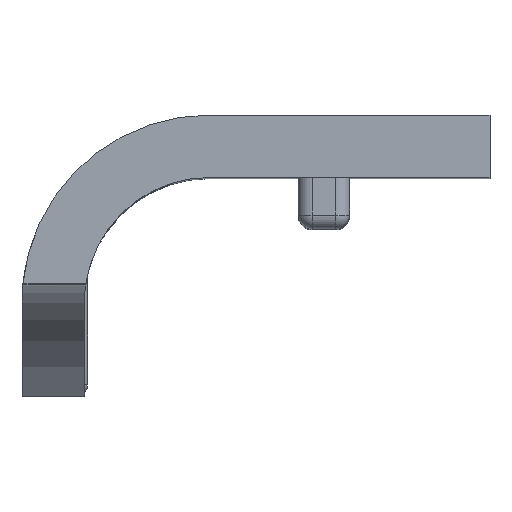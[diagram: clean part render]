
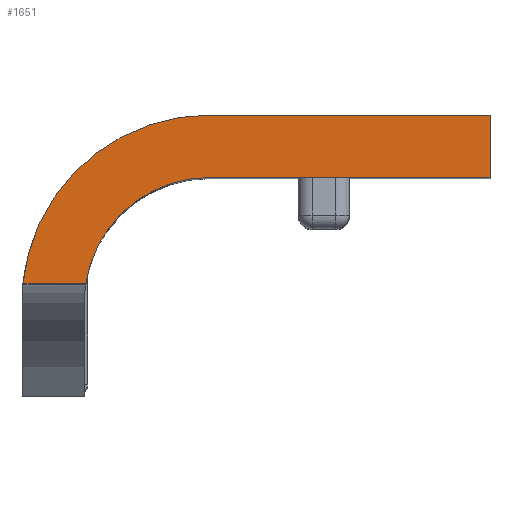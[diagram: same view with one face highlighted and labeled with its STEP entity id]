
A CAD part, top view. The second image highlights one B-rep face of the part: STEP entity #1651.
In plain terms, the highlighted planar face has unit normal (0, 0, 1).
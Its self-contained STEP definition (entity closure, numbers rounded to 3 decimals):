
#131 = CYLINDRICAL_SURFACE('',#132,6.);
#132 = AXIS2_PLACEMENT_3D('',#133,#134,#135);
#133 = CARTESIAN_POINT('',(-38.,7.2,47.));
#134 = DIRECTION('',(-0.,-0.,-1.));
#135 = DIRECTION('',(0.,1.,-0.));
#200 = PLANE('',#201);
#201 = AXIS2_PLACEMENT_3D('',#202,#203,#204);
#202 = CARTESIAN_POINT('',(-47.,7.8,-28.5));
#203 = DIRECTION('',(-0.,-1.,0.));
#204 = DIRECTION('',(0.,0.,1.));
#246 = CYLINDRICAL_SURFACE('',#247,4.);
#247 = AXIS2_PLACEMENT_3D('',#248,#249,#250);
#248 = CARTESIAN_POINT('',(-38.,7.2,47.));
#249 = DIRECTION('',(-0.,-0.,-1.));
#250 = DIRECTION('',(0.,1.,-0.));
#539 = EDGE_CURVE('',#540,#542,#544,.T.);
#540 = VERTEX_POINT('',#541);
#541 = CARTESIAN_POINT('',(-43.97,7.8,-17.));
#542 = VERTEX_POINT('',#543);
#543 = CARTESIAN_POINT('',(-38.,13.2,-17.));
#544 = SURFACE_CURVE('',#545,(#550,#557),.PCURVE_S1.);
#545 = CIRCLE('',#546,6.);
#546 = AXIS2_PLACEMENT_3D('',#547,#548,#549);
#547 = CARTESIAN_POINT('',(-38.,7.2,-17.));
#548 = DIRECTION('',(0.,-0.,-1.));
#549 = DIRECTION('',(0.,1.,-0.));
#550 = PCURVE('',#131,#551);
#551 = DEFINITIONAL_REPRESENTATION('',(#552),#556);
#552 = LINE('',#553,#554);
#553 = CARTESIAN_POINT('',(0.,64.));
#554 = VECTOR('',#555,1.);
#555 = DIRECTION('',(1.,0.));
#556 = ( GEOMETRIC_REPRESENTATION_CONTEXT(2) 
PARAMETRIC_REPRESENTATION_CONTEXT() REPRESENTATION_CONTEXT('2D SPACE',''
  ) );
#557 = PCURVE('',#558,#563);
#558 = PLANE('',#559);
#559 = AXIS2_PLACEMENT_3D('',#560,#561,#562);
#560 = CARTESIAN_POINT('',(-44.,4.2,-17.));
#561 = DIRECTION('',(0.,0.,1.));
#562 = DIRECTION('',(1.,0.,0.));
#563 = DEFINITIONAL_REPRESENTATION('',(#564),#572);
#564 = ( BOUNDED_CURVE() B_SPLINE_CURVE(2,(#565,#566,#567,#568,#569,#570
,#571),.UNSPECIFIED.,.T.,.F.) B_SPLINE_CURVE_WITH_KNOTS((1,2,2,2,2,1),(
    -2.094,0.,2.094,4.189,6.283,
8.378),.UNSPECIFIED.) CURVE() GEOMETRIC_REPRESENTATION_ITEM() 
RATIONAL_B_SPLINE_CURVE((1.,0.5,1.,0.5,1.,0.5,1.)) REPRESENTATION_ITEM(
  '') );
#565 = CARTESIAN_POINT('',(6.,9.));
#566 = CARTESIAN_POINT('',(16.392,9.));
#567 = CARTESIAN_POINT('',(11.196,0.));
#568 = CARTESIAN_POINT('',(6.,-9.));
#569 = CARTESIAN_POINT('',(0.804,0.));
#570 = CARTESIAN_POINT('',(-4.392,9.));
#571 = CARTESIAN_POINT('',(6.,9.));
#572 = ( GEOMETRIC_REPRESENTATION_CONTEXT(2) 
PARAMETRIC_REPRESENTATION_CONTEXT() REPRESENTATION_CONTEXT('2D SPACE',''
  ) );
#590 = PLANE('',#591);
#591 = AXIS2_PLACEMENT_3D('',#592,#593,#594);
#592 = CARTESIAN_POINT('',(-44.,13.2,-75.));
#593 = DIRECTION('',(0.,1.,0.));
#594 = DIRECTION('',(0.,-0.,1.));
#820 = EDGE_CURVE('',#821,#540,#823,.T.);
#821 = VERTEX_POINT('',#822);
#822 = CARTESIAN_POINT('',(-41.955,7.8,-17.));
#823 = SURFACE_CURVE('',#824,(#828,#834),.PCURVE_S1.);
#824 = LINE('',#825,#826);
#825 = CARTESIAN_POINT('',(-45.5,7.8,-17.));
#826 = VECTOR('',#827,1.);
#827 = DIRECTION('',(-1.,0.,0.));
#828 = PCURVE('',#200,#829);
#829 = DEFINITIONAL_REPRESENTATION('',(#830),#833);
#830 = B_SPLINE_CURVE_WITH_KNOTS('',1,(#831,#832),.UNSPECIFIED.,.F.,.F.,
  (2,2),(-3.545,-1.53),.PIECEWISE_BEZIER_KNOTS.);
#831 = CARTESIAN_POINT('',(11.5,-5.045));
#832 = CARTESIAN_POINT('',(11.5,-3.03));
#833 = ( GEOMETRIC_REPRESENTATION_CONTEXT(2) 
PARAMETRIC_REPRESENTATION_CONTEXT() REPRESENTATION_CONTEXT('2D SPACE',''
  ) );
#834 = PCURVE('',#558,#835);
#835 = DEFINITIONAL_REPRESENTATION('',(#836),#839);
#836 = B_SPLINE_CURVE_WITH_KNOTS('',1,(#837,#838),.UNSPECIFIED.,.F.,.F.,
  (2,2),(-3.545,-1.53),.PIECEWISE_BEZIER_KNOTS.);
#837 = CARTESIAN_POINT('',(2.045,3.6));
#838 = CARTESIAN_POINT('',(0.03,3.6));
#839 = ( GEOMETRIC_REPRESENTATION_CONTEXT(2) 
PARAMETRIC_REPRESENTATION_CONTEXT() REPRESENTATION_CONTEXT('2D SPACE',''
  ) );
#866 = EDGE_CURVE('',#821,#867,#869,.T.);
#867 = VERTEX_POINT('',#868);
#868 = CARTESIAN_POINT('',(-38.,11.2,-17.));
#869 = SURFACE_CURVE('',#870,(#875,#882),.PCURVE_S1.);
#870 = CIRCLE('',#871,4.);
#871 = AXIS2_PLACEMENT_3D('',#872,#873,#874);
#872 = CARTESIAN_POINT('',(-38.,7.2,-17.));
#873 = DIRECTION('',(0.,-0.,-1.));
#874 = DIRECTION('',(0.,1.,-0.));
#875 = PCURVE('',#246,#876);
#876 = DEFINITIONAL_REPRESENTATION('',(#877),#881);
#877 = LINE('',#878,#879);
#878 = CARTESIAN_POINT('',(0.,64.));
#879 = VECTOR('',#880,1.);
#880 = DIRECTION('',(1.,0.));
#881 = ( GEOMETRIC_REPRESENTATION_CONTEXT(2) 
PARAMETRIC_REPRESENTATION_CONTEXT() REPRESENTATION_CONTEXT('2D SPACE',''
  ) );
#882 = PCURVE('',#558,#883);
#883 = DEFINITIONAL_REPRESENTATION('',(#884),#892);
#884 = ( BOUNDED_CURVE() B_SPLINE_CURVE(2,(#885,#886,#887,#888,#889,#890
,#891),.UNSPECIFIED.,.T.,.F.) B_SPLINE_CURVE_WITH_KNOTS((1,2,2,2,2,1),(
    -2.094,0.,2.094,4.189,6.283,
8.378),.UNSPECIFIED.) CURVE() GEOMETRIC_REPRESENTATION_ITEM() 
RATIONAL_B_SPLINE_CURVE((1.,0.5,1.,0.5,1.,0.5,1.)) REPRESENTATION_ITEM(
  '') );
#885 = CARTESIAN_POINT('',(6.,7.));
#886 = CARTESIAN_POINT('',(12.928,7.));
#887 = CARTESIAN_POINT('',(9.464,1.));
#888 = CARTESIAN_POINT('',(6.,-5.));
#889 = CARTESIAN_POINT('',(2.536,1.));
#890 = CARTESIAN_POINT('',(-0.928,7.));
#891 = CARTESIAN_POINT('',(6.,7.));
#892 = ( GEOMETRIC_REPRESENTATION_CONTEXT(2) 
PARAMETRIC_REPRESENTATION_CONTEXT() REPRESENTATION_CONTEXT('2D SPACE',''
  ) );
#910 = PLANE('',#911);
#911 = AXIS2_PLACEMENT_3D('',#912,#913,#914);
#912 = CARTESIAN_POINT('',(-42.,11.2,-73.));
#913 = DIRECTION('',(0.,1.,0.));
#914 = DIRECTION('',(0.,-0.,1.));
#1651 = ADVANCED_FACE('',(#1652),#558,.T.);
#1652 = FACE_BOUND('',#1653,.T.);
#1653 = EDGE_LOOP('',(#1654,#1684,#1703,#1704,#1705,#1706));
#1654 = ORIENTED_EDGE('',*,*,#1655,.T.);
#1655 = EDGE_CURVE('',#1656,#1658,#1660,.T.);
#1656 = VERTEX_POINT('',#1657);
#1657 = CARTESIAN_POINT('',(-29.,11.2,-17.));
#1658 = VERTEX_POINT('',#1659);
#1659 = CARTESIAN_POINT('',(-29.,13.2,-17.));
#1660 = SURFACE_CURVE('',#1661,(#1665,#1672),.PCURVE_S1.);
#1661 = LINE('',#1662,#1663);
#1662 = CARTESIAN_POINT('',(-29.,4.2,-17.));
#1663 = VECTOR('',#1664,1.);
#1664 = DIRECTION('',(0.,1.,0.));
#1665 = PCURVE('',#558,#1666);
#1666 = DEFINITIONAL_REPRESENTATION('',(#1667),#1671);
#1667 = LINE('',#1668,#1669);
#1668 = CARTESIAN_POINT('',(15.,0.));
#1669 = VECTOR('',#1670,1.);
#1670 = DIRECTION('',(0.,1.));
#1671 = ( GEOMETRIC_REPRESENTATION_CONTEXT(2) 
PARAMETRIC_REPRESENTATION_CONTEXT() REPRESENTATION_CONTEXT('2D SPACE',''
  ) );
#1672 = PCURVE('',#1673,#1678);
#1673 = PLANE('',#1674);
#1674 = AXIS2_PLACEMENT_3D('',#1675,#1676,#1677);
#1675 = CARTESIAN_POINT('',(-29.,4.2,-39.));
#1676 = DIRECTION('',(1.,0.,0.));
#1677 = DIRECTION('',(0.,0.,1.));
#1678 = DEFINITIONAL_REPRESENTATION('',(#1679),#1683);
#1679 = LINE('',#1680,#1681);
#1680 = CARTESIAN_POINT('',(22.,0.));
#1681 = VECTOR('',#1682,1.);
#1682 = DIRECTION('',(0.,-1.));
#1683 = ( GEOMETRIC_REPRESENTATION_CONTEXT(2) 
PARAMETRIC_REPRESENTATION_CONTEXT() REPRESENTATION_CONTEXT('2D SPACE',''
  ) );
#1684 = ORIENTED_EDGE('',*,*,#1685,.F.);
#1685 = EDGE_CURVE('',#542,#1658,#1686,.T.);
#1686 = SURFACE_CURVE('',#1687,(#1691,#1697),.PCURVE_S1.);
#1687 = LINE('',#1688,#1689);
#1688 = CARTESIAN_POINT('',(-44.,13.2,-17.));
#1689 = VECTOR('',#1690,1.);
#1690 = DIRECTION('',(1.,0.,0.));
#1691 = PCURVE('',#558,#1692);
#1692 = DEFINITIONAL_REPRESENTATION('',(#1693),#1696);
#1693 = B_SPLINE_CURVE_WITH_KNOTS('',1,(#1694,#1695),.UNSPECIFIED.,.F.,
  .F.,(2,2),(6.,15.),.PIECEWISE_BEZIER_KNOTS.);
#1694 = CARTESIAN_POINT('',(6.,9.));
#1695 = CARTESIAN_POINT('',(15.,9.));
#1696 = ( GEOMETRIC_REPRESENTATION_CONTEXT(2) 
PARAMETRIC_REPRESENTATION_CONTEXT() REPRESENTATION_CONTEXT('2D SPACE',''
  ) );
#1697 = PCURVE('',#590,#1698);
#1698 = DEFINITIONAL_REPRESENTATION('',(#1699),#1702);
#1699 = B_SPLINE_CURVE_WITH_KNOTS('',1,(#1700,#1701),.UNSPECIFIED.,.F.,
  .F.,(2,2),(6.,15.),.PIECEWISE_BEZIER_KNOTS.);
#1700 = CARTESIAN_POINT('',(58.,6.));
#1701 = CARTESIAN_POINT('',(58.,15.));
#1702 = ( GEOMETRIC_REPRESENTATION_CONTEXT(2) 
PARAMETRIC_REPRESENTATION_CONTEXT() REPRESENTATION_CONTEXT('2D SPACE',''
  ) );
#1703 = ORIENTED_EDGE('',*,*,#539,.F.);
#1704 = ORIENTED_EDGE('',*,*,#820,.F.);
#1705 = ORIENTED_EDGE('',*,*,#866,.T.);
#1706 = ORIENTED_EDGE('',*,*,#1707,.T.);
#1707 = EDGE_CURVE('',#867,#1656,#1708,.T.);
#1708 = SURFACE_CURVE('',#1709,(#1713,#1719),.PCURVE_S1.);
#1709 = LINE('',#1710,#1711);
#1710 = CARTESIAN_POINT('',(-43.,11.2,-17.));
#1711 = VECTOR('',#1712,1.);
#1712 = DIRECTION('',(1.,0.,0.));
#1713 = PCURVE('',#558,#1714);
#1714 = DEFINITIONAL_REPRESENTATION('',(#1715),#1718);
#1715 = B_SPLINE_CURVE_WITH_KNOTS('',1,(#1716,#1717),.UNSPECIFIED.,.F.,
  .F.,(2,2),(5.,14.),.PIECEWISE_BEZIER_KNOTS.);
#1716 = CARTESIAN_POINT('',(6.,7.));
#1717 = CARTESIAN_POINT('',(15.,7.));
#1718 = ( GEOMETRIC_REPRESENTATION_CONTEXT(2) 
PARAMETRIC_REPRESENTATION_CONTEXT() REPRESENTATION_CONTEXT('2D SPACE',''
  ) );
#1719 = PCURVE('',#910,#1720);
#1720 = DEFINITIONAL_REPRESENTATION('',(#1721),#1724);
#1721 = B_SPLINE_CURVE_WITH_KNOTS('',1,(#1722,#1723),.UNSPECIFIED.,.F.,
  .F.,(2,2),(5.,14.),.PIECEWISE_BEZIER_KNOTS.);
#1722 = CARTESIAN_POINT('',(56.,4.));
#1723 = CARTESIAN_POINT('',(56.,13.));
#1724 = ( GEOMETRIC_REPRESENTATION_CONTEXT(2) 
PARAMETRIC_REPRESENTATION_CONTEXT() REPRESENTATION_CONTEXT('2D SPACE',''
  ) );
